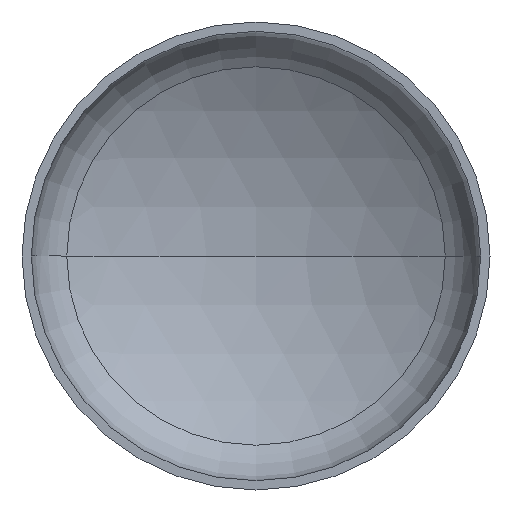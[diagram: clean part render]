
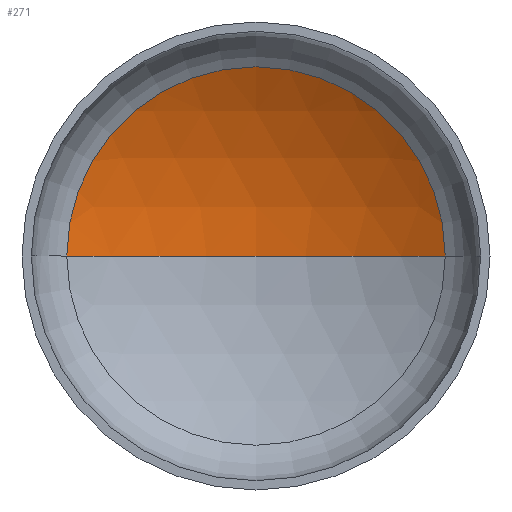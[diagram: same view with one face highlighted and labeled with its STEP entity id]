
A CAD part, front view. The second image highlights one B-rep face of the part: STEP entity #271.
In plain terms, the highlighted spherical face has radius 2560 mm.
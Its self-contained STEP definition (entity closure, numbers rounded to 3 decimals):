
#11 = AXIS2_PLACEMENT_3D ( 'NONE', #112, #108, #317 ) ;
#15 = AXIS2_PLACEMENT_3D ( 'NONE', #111, #107, #109 ) ;
#19 = AXIS2_PLACEMENT_3D ( 'NONE', #187, #185, #120 ) ;
#36 = CIRCLE ( 'NONE', #300, 2560. ) ;
#56 = DIRECTION ( 'NONE',  ( 0., 0., 1. ) ) ;
#107 = DIRECTION ( 'NONE',  ( 0., -1., 0. ) ) ;
#108 = DIRECTION ( 'NONE',  ( 0., 0., -1. ) ) ;
#109 = DIRECTION ( 'NONE',  ( 1., 0., 0. ) ) ;
#111 = CARTESIAN_POINT ( 'NONE',  ( 0., 542.838, 0. ) ) ;
#112 = CARTESIAN_POINT ( 'NONE',  ( 0., -1666.277, 0. ) ) ;
#120 = DIRECTION ( 'NONE',  ( -1., 0., 0. ) ) ;
#128 = VERTEX_POINT ( 'NONE', #167 ) ;
#149 = CIRCLE ( 'NONE', #15, 1293.604 ) ;
#159 = SPHERICAL_SURFACE ( 'NONE', #19, 2560. ) ;
#167 = CARTESIAN_POINT ( 'NONE',  ( -1293.604, 542.838, 0. ) ) ;
#175 = VERTEX_POINT ( 'NONE', #316 ) ;
#185 = DIRECTION ( 'NONE',  ( 0., 0., -1. ) ) ;
#187 = CARTESIAN_POINT ( 'NONE',  ( 0., -1666.277, 0. ) ) ;
#230 = CARTESIAN_POINT ( 'NONE',  ( 0., -1666.277, 0. ) ) ;
#253 = CARTESIAN_POINT ( 'NONE',  ( 0., 893.723, 0. ) ) ;
#256 = DIRECTION ( 'NONE',  ( 1., 0., 0. ) ) ;
#271 = ADVANCED_FACE ( 'NONE', ( #390 ), #159, .F. ) ;
#294 = CIRCLE ( 'NONE', #11, 2560. ) ;
#300 = AXIS2_PLACEMENT_3D ( 'NONE', #230, #56, #256 ) ;
#306 = EDGE_CURVE ( 'NONE', #175, #128, #149, .T. ) ;
#311 = EDGE_CURVE ( 'NONE', #404, #175, #294, .T. ) ;
#316 = CARTESIAN_POINT ( 'NONE',  ( 1293.604, 542.838, 0. ) ) ;
#317 = DIRECTION ( 'NONE',  ( -1., 0., 0. ) ) ;
#319 = EDGE_LOOP ( 'NONE', ( #401, #360, #411 ) ) ;
#360 = ORIENTED_EDGE ( 'NONE', *, *, #311, .T. ) ;
#387 = EDGE_CURVE ( 'NONE', #404, #128, #36, .T. ) ;
#390 = FACE_OUTER_BOUND ( 'NONE', #319, .T. ) ;
#401 = ORIENTED_EDGE ( 'NONE', *, *, #387, .F. ) ;
#404 = VERTEX_POINT ( 'NONE', #253 ) ;
#411 = ORIENTED_EDGE ( 'NONE', *, *, #306, .T. ) ;
